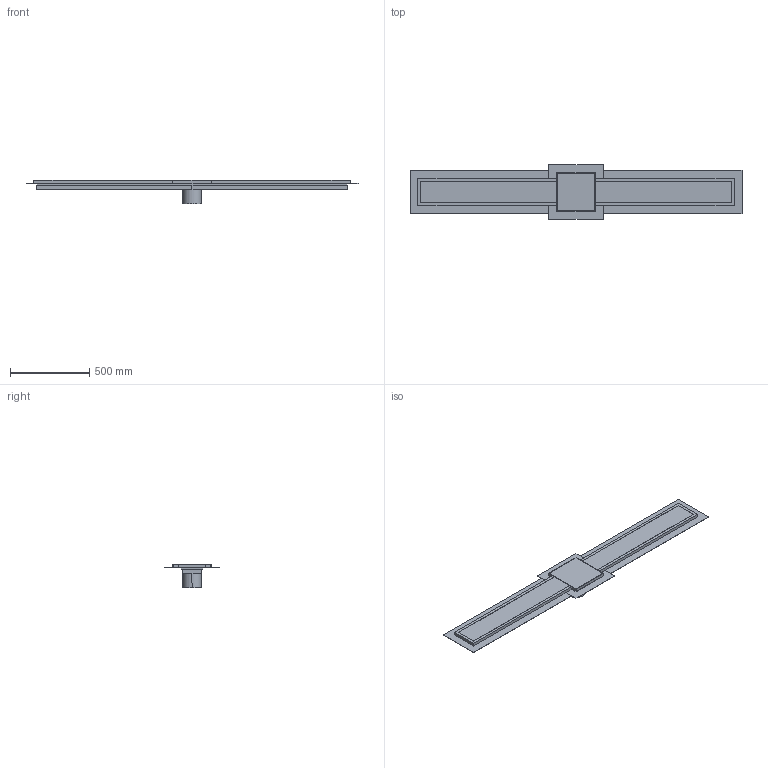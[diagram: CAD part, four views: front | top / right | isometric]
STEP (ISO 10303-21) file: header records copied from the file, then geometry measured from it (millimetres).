
FILE_DESCRIPTION(/* description */ (''),/* implementation_level */ '2;1');
FILE_NAME(/* name */ 'E:\Workspace\resitec\Packs\Kategorie\Entwässerungsrinne\STP\RS770K.18.245Entwässerungsrinne mit Auslaufkasten245mmM-4xKR.s.ipt.stp',/* time_stamp */ '2020-10-04T20:56:16+02:00',/* author */ ('ndmes'),/* organization */ (''),/* preprocessor_version */ 'ST-DEVELOPER v18.1',/* originating_system */ 'Autodesk Inventor 2021',/* authorisation */ '');
FILE_SCHEMA (('AUTOMOTIVE_DESIGN { 1 0 10303 214 3 1 1 }'));
Length unit declared in the file: millimetre
Products named in the file (1): RS770K.18.245Entwässerungsrinne mit Auslaufkasten245mmM-4xKR.s
Bounding box: 2100 x 345 x 150 mm (x, y, z)
Volume: 18790553.7 mm3; surface area: 3304796.1 mm2
Topology: 14 solids, 14 shells, 99 faces, 213 edges, 142 vertices
Faces by surface type: plane 97, cylinder 2
Entity records: 2667 total; most frequent: CARTESIAN_POINT 455, ORIENTED_EDGE 426, DIRECTION 417, EDGE_CURVE 213, LINE 209, VECTOR 209, VERTEX_POINT 142, AXIS2_PLACEMENT_3D 104
